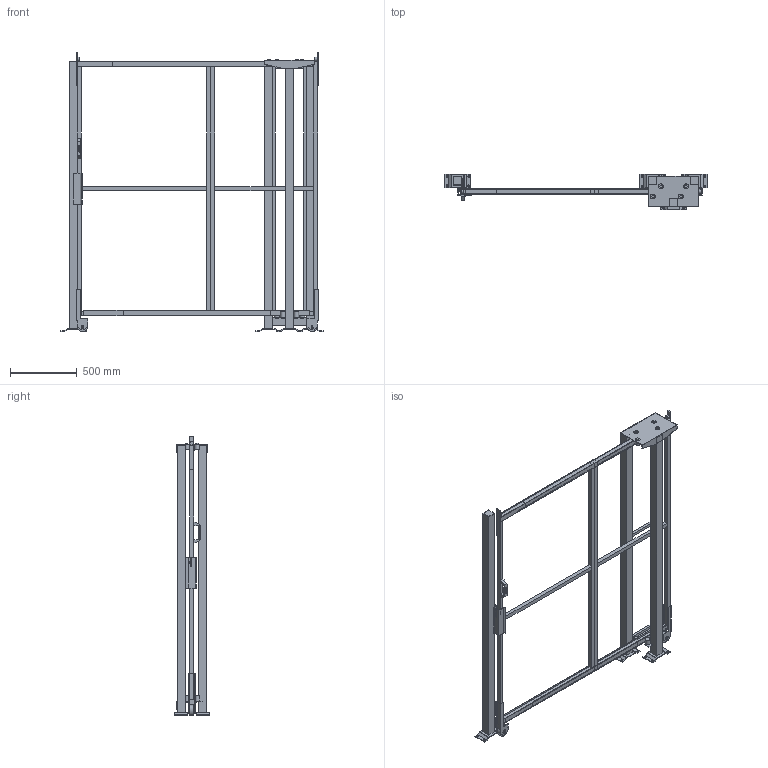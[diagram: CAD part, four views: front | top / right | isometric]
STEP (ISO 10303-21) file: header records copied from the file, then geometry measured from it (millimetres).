
FILE_DESCRIPTION(/* description */ (''),/* implementation_level */ '2;1');
FILE_NAME(/* name */ 'C:\SafeGuarding\ELABORATI\KLADKA_2025-03-18-13-19-28.stp',/* time_stamp */ '2025-03-18T13:19:30+01:00',/* author */ ('admin'),/* organization */ (''),/* preprocessor_version */ 'ST-DEVELOPER v18.1',/* originating_system */ 'AutoCAD Mechanical',/* authorisation */ '');
FILE_SCHEMA (('AUTOMOTIVE_DESIGN { 1 0 10303 214 3 1 1 }'));
Length unit declared in the file: millimetre
Products named in the file (5): Product; R_VFPA.REPE30.08001900; R_VFPA.REPE30.10001900; R_VFPA.REPE20.02501900; P_VFMA.V260SDU.2020
Assembly tree (7 placements, depth 2):
  Product
    R_VFPA.REPE30.08001900
    R_VFPA.REPE30.10001900
    R_VFPA.REPE20.02501900
    P_VFMA.V260SDU.2020  x4
Bounding box: 1962.02 x 264.1 x 2090.02 mm (x, y, z)
Volume: 45580054.2 mm3; surface area: 6208003.9 mm2
Topology: 61 solids, 72 shells, 555 faces, 1690 edges, 1685 vertices
Faces by surface type: plane 503, cylinder 50, sphere 2
Full cylindrical faces by diameter (mm): 9 x4, 11 x16, 13 x4, 30 x6, 36 x8, 80 x2
Entity records: 15905 total; most frequent: CARTESIAN_POINT 3398, DIRECTION 2419, ORIENTED_EDGE 2202, LINE 1167, VECTOR 1167, EDGE_CURVE 1150, VERTEX_POINT 806, AXIS2_PLACEMENT_3D 626
